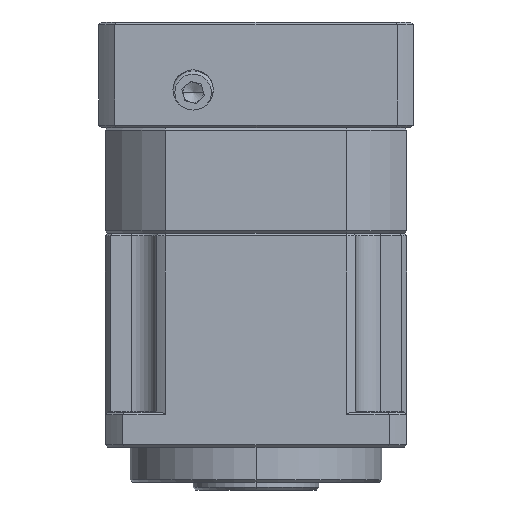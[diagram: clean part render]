
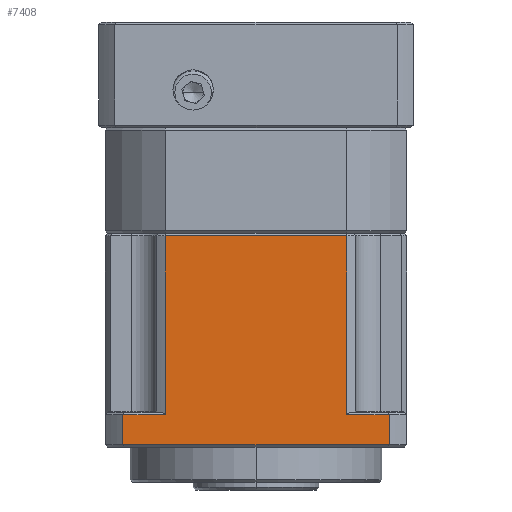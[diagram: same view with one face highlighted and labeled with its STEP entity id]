
A CAD part, left-side view. The second image highlights one B-rep face of the part: STEP entity #7408.
In plain terms, the highlighted planar face has unit normal (-1, 0, 0).
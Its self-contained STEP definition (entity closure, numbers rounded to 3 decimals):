
#1622 = CARTESIAN_POINT ( 'NONE',  ( -61.017, -3.044, -73.032 ) ) ;
#3449 = CARTESIAN_POINT ( 'NONE',  ( -61.017, -3.044, -67.032 ) ) ;
#5150 = DIRECTION ( 'NONE',  ( 0., -1., 0. ) ) ;
#5720 = CARTESIAN_POINT ( 'NONE',  ( -61.017, -6.586, -67.032 ) ) ;
#5883 = ORIENTED_EDGE ( 'NONE', *, *, #64237, .F. ) ;
#6155 = CARTESIAN_POINT ( 'NONE',  ( -61.017, -3.044, -36.532 ) ) ;
#6355 = CARTESIAN_POINT ( 'NONE',  ( -61.017, -6.586, -36.532 ) ) ;
#6646 = VECTOR ( 'NONE', #14892, 1000. ) ;
#6731 = LINE ( 'NONE', #7915, #49092 ) ;
#6933 = DIRECTION ( 'NONE',  ( 1., 0., 0. ) ) ;
#7408 = ADVANCED_FACE ( 'NONE', ( #22503 ), #27563, .F. ) ;
#7792 = EDGE_CURVE ( 'NONE', #23726, #33490, #25627, .T. ) ;
#7915 = CARTESIAN_POINT ( 'NONE',  ( -61.017, 41.441, -36.532 ) ) ;
#11019 = VERTEX_POINT ( 'NONE', #27640 ) ;
#13381 = EDGE_CURVE ( 'NONE', #43515, #73305, #38391, .T. ) ;
#14892 = DIRECTION ( 'NONE',  ( 0., 0., -1. ) ) ;
#15324 = CARTESIAN_POINT ( 'NONE',  ( -61.017, 5.386, -31.532 ) ) ;
#15640 = DIRECTION ( 'NONE',  ( 0., -1., 0. ) ) ;
#17997 = LINE ( 'NONE', #6155, #76335 ) ;
#20588 = AXIS2_PLACEMENT_3D ( 'NONE', #6355, #6933, #60467 ) ;
#22503 = FACE_OUTER_BOUND ( 'NONE', #34692, .T. ) ;
#22696 = EDGE_CURVE ( 'NONE', #33490, #11019, #6731, .T. ) ;
#23726 = VERTEX_POINT ( 'NONE', #56771 ) ;
#24136 = LINE ( 'NONE', #53749, #37965 ) ;
#25336 = LINE ( 'NONE', #35833, #51920 ) ;
#25627 = LINE ( 'NONE', #5720, #51191 ) ;
#27082 = CARTESIAN_POINT ( 'NONE',  ( -61.017, -6.586, -67.032 ) ) ;
#27563 = PLANE ( 'NONE',  #20588 ) ;
#27640 = CARTESIAN_POINT ( 'NONE',  ( -61.017, 41.441, -31.532 ) ) ;
#27888 = ORIENTED_EDGE ( 'NONE', *, *, #33273, .F. ) ;
#29975 = ORIENTED_EDGE ( 'NONE', *, *, #22696, .F. ) ;
#31524 = ORIENTED_EDGE ( 'NONE', *, *, #52869, .F. ) ;
#32330 = VERTEX_POINT ( 'NONE', #1622 ) ;
#33273 = EDGE_CURVE ( 'NONE', #73305, #74168, #57466, .T. ) ;
#33490 = VERTEX_POINT ( 'NONE', #38600 ) ;
#34692 = EDGE_LOOP ( 'NONE', ( #42165, #29975, #66314, #5883, #55600, #31524, #27888, #37527 ) ) ;
#35047 = CARTESIAN_POINT ( 'NONE',  ( -61.017, 5.386, -36.532 ) ) ;
#35833 = CARTESIAN_POINT ( 'NONE',  ( -61.017, 23.414, -31.532 ) ) ;
#37527 = ORIENTED_EDGE ( 'NONE', *, *, #13381, .F. ) ;
#37965 = VECTOR ( 'NONE', #73234, 1000. ) ;
#38391 = LINE ( 'NONE', #35047, #6646 ) ;
#38600 = CARTESIAN_POINT ( 'NONE',  ( -61.017, 41.441, -67.032 ) ) ;
#39325 = CARTESIAN_POINT ( 'NONE',  ( -61.017, 5.386, -67.032 ) ) ;
#42165 = ORIENTED_EDGE ( 'NONE', *, *, #67474, .F. ) ;
#43515 = VERTEX_POINT ( 'NONE', #15324 ) ;
#45006 = VECTOR ( 'NONE', #60481, 1000. ) ;
#47803 = VERTEX_POINT ( 'NONE', #50154 ) ;
#48405 = DIRECTION ( 'NONE',  ( 0., 0., 1. ) ) ;
#49092 = VECTOR ( 'NONE', #48405, 1000. ) ;
#50154 = CARTESIAN_POINT ( 'NONE',  ( -61.017, 49.871, -73.032 ) ) ;
#51191 = VECTOR ( 'NONE', #5150, 1000. ) ;
#51920 = VECTOR ( 'NONE', #15640, 1000. ) ;
#52869 = EDGE_CURVE ( 'NONE', #74168, #32330, #17997, .T. ) ;
#53749 = CARTESIAN_POINT ( 'NONE',  ( -61.017, 49.871, -36.532 ) ) ;
#55259 = DIRECTION ( 'NONE',  ( 0., -1., 0. ) ) ;
#55600 = ORIENTED_EDGE ( 'NONE', *, *, #80160, .F. ) ;
#56771 = CARTESIAN_POINT ( 'NONE',  ( -61.017, 49.871, -67.032 ) ) ;
#57466 = LINE ( 'NONE', #27082, #80646 ) ;
#60467 = DIRECTION ( 'NONE',  ( 0., 0., -1. ) ) ;
#60481 = DIRECTION ( 'NONE',  ( 0., 1., 0. ) ) ;
#60567 = DIRECTION ( 'NONE',  ( 0., 0., -1. ) ) ;
#63010 = LINE ( 'NONE', #66410, #45006 ) ;
#64237 = EDGE_CURVE ( 'NONE', #47803, #23726, #24136, .T. ) ;
#66314 = ORIENTED_EDGE ( 'NONE', *, *, #7792, .F. ) ;
#66410 = CARTESIAN_POINT ( 'NONE',  ( -61.017, -6.586, -73.032 ) ) ;
#67474 = EDGE_CURVE ( 'NONE', #11019, #43515, #25336, .T. ) ;
#73234 = DIRECTION ( 'NONE',  ( 0., 0., 1. ) ) ;
#73305 = VERTEX_POINT ( 'NONE', #39325 ) ;
#74168 = VERTEX_POINT ( 'NONE', #3449 ) ;
#76335 = VECTOR ( 'NONE', #60567, 1000. ) ;
#80160 = EDGE_CURVE ( 'NONE', #32330, #47803, #63010, .T. ) ;
#80646 = VECTOR ( 'NONE', #55259, 1000. ) ;
